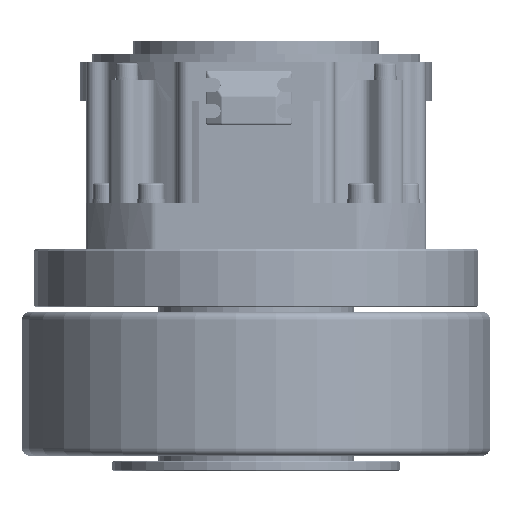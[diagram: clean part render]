
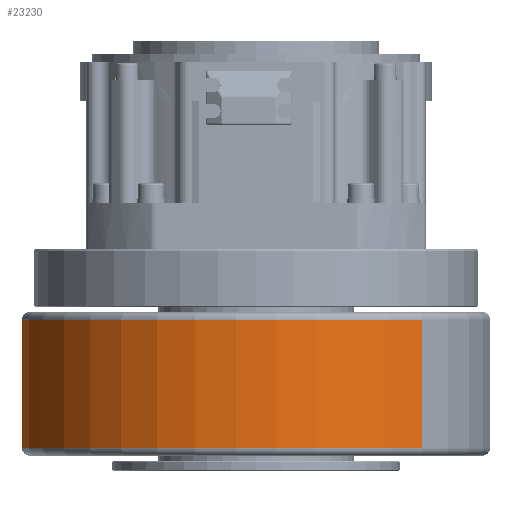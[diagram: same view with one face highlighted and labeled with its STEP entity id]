
A CAD part, left-side view. The second image highlights one B-rep face of the part: STEP entity #23230.
In plain terms, the highlighted cylindrical face has radius 90 mm (diameter 180 mm), a partial arc.
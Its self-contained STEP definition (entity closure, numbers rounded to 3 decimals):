
#19745=CARTESIAN_POINT('',(52.,0.,0.));
#19746=DIRECTION('',(-1.,0.,0.));
#19747=DIRECTION('',(0.,0.,-1.));
#19748=AXIS2_PLACEMENT_3D('',#19745,#19746,#19747);
#19750=DIRECTION('',(-1.,0.,0.));
#19751=VECTOR('',#19750,49.);
#19752=CARTESIAN_POINT('',(52.,0.,90.));
#19753=LINE('',#19752,#19751);
#19754=DIRECTION('',(-1.,0.,0.));
#19755=VECTOR('',#19754,49.);
#19756=CARTESIAN_POINT('',(52.,0.,-90.));
#19757=LINE('',#19756,#19755);
#19773=CARTESIAN_POINT('',(3.,0.,0.));
#19774=DIRECTION('',(1.,0.,0.));
#19775=DIRECTION('',(0.,0.,1.));
#19776=AXIS2_PLACEMENT_3D('',#19773,#19774,#19775);
#20494=CARTESIAN_POINT('',(3.,0.,90.));
#20496=VERTEX_POINT('',#20494);
#20498=CARTESIAN_POINT('',(3.,0.,-90.));
#20500=VERTEX_POINT('',#20498);
#20502=CARTESIAN_POINT('',(52.,0.,90.));
#20503=VERTEX_POINT('',#20502);
#20504=CARTESIAN_POINT('',(52.,0.,-90.));
#20505=VERTEX_POINT('',#20504);
#23216=CARTESIAN_POINT('',(0.,0.,0.));
#23217=DIRECTION('',(-1.,0.,0.));
#23218=DIRECTION('',(0.,0.,1.));
#23219=AXIS2_PLACEMENT_3D('',#23216,#23217,#23218);
#23220=CYLINDRICAL_SURFACE('',#23219,90.);
#23222=ORIENTED_EDGE('',*,*,#23221,.F.);
#23223=ORIENTED_EDGE('',*,*,#23208,.F.);
#23225=ORIENTED_EDGE('',*,*,#23224,.T.);
#23227=ORIENTED_EDGE('',*,*,#23226,.F.);
#23228=EDGE_LOOP('',(#23222,#23223,#23225,#23227));
#23229=FACE_OUTER_BOUND('',#23228,.F.);
#23230=ADVANCED_FACE('',(#23229),#23220,.T.);
#19749=CIRCLE('',#19748,90.);
#19777=CIRCLE('',#19776,90.);
#23208=EDGE_CURVE('',#20505,#20503,#19749,.T.);
#23221=EDGE_CURVE('',#20503,#20496,#19753,.T.);
#23224=EDGE_CURVE('',#20505,#20500,#19757,.T.);
#23226=EDGE_CURVE('',#20496,#20500,#19777,.T.);
